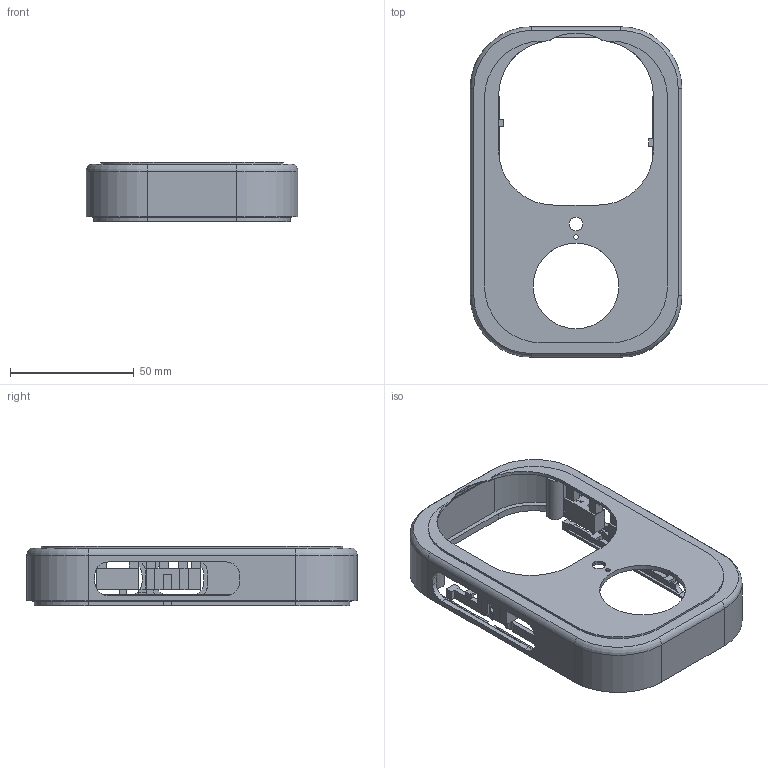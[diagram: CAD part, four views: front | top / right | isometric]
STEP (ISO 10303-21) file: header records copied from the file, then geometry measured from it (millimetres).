
FILE_DESCRIPTION(('Open CASCADE Model'),'2;1');
FILE_NAME('Open CASCADE Shape Model','2026-09-08T16:17:04',('Author'),( 'Open CASCADE'),'Open CASCADE STEP processor 7.7','Open CASCADE 7.7' ,'Unknown');
FILE_SCHEMA(('AUTOMOTIVE_DESIGN { 1 0 10303 214 1 1 1 1 }'));
Length unit declared in the file: millimetre
Products named in the file (1): Open CASCADE STEP translator 7.7 4
Bounding box: 85.6 x 133.6 x 24.2 mm (x, y, z)
Volume: 34066.4 mm3; surface area: 37273.4 mm2
Topology: 1 solids, 3 shells, 497 faces, 1444 edges, 954 vertices
Faces by surface type: plane 366, cylinder 115, torus 16
Full cylindrical faces by diameter (mm): 1.7 x8, 1.8 x1, 5.2 x2, 5.4 x1, 34.6 x1
Entity records: 35519 total; most frequent: CARTESIAN_POINT 7195, DIRECTION 5117, LINE 3351, VECTOR 3351, ORIENTED_EDGE 2888, PCURVE 2888, DEFINITIONAL_REPRESENTATION 2888, EDGE_CURVE 1444
